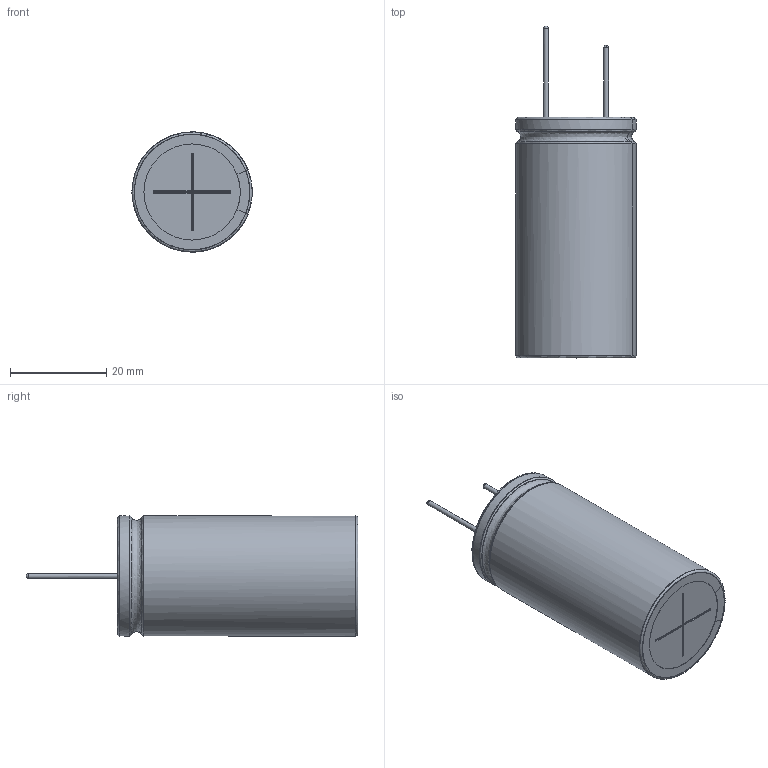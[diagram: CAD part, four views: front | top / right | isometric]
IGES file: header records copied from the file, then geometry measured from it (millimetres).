
Start section: JAMA-IS VERSION  1.0
Bounding box: 24.96 x 69 x 24.98 mm (x, y, z)
Surface area: 13576.2 mm2 (no closed solid volume)
Topology: 0 solids, 0 shells, 100 faces, 1480 edges, 1460 vertices
Faces by surface type: bspline 100
